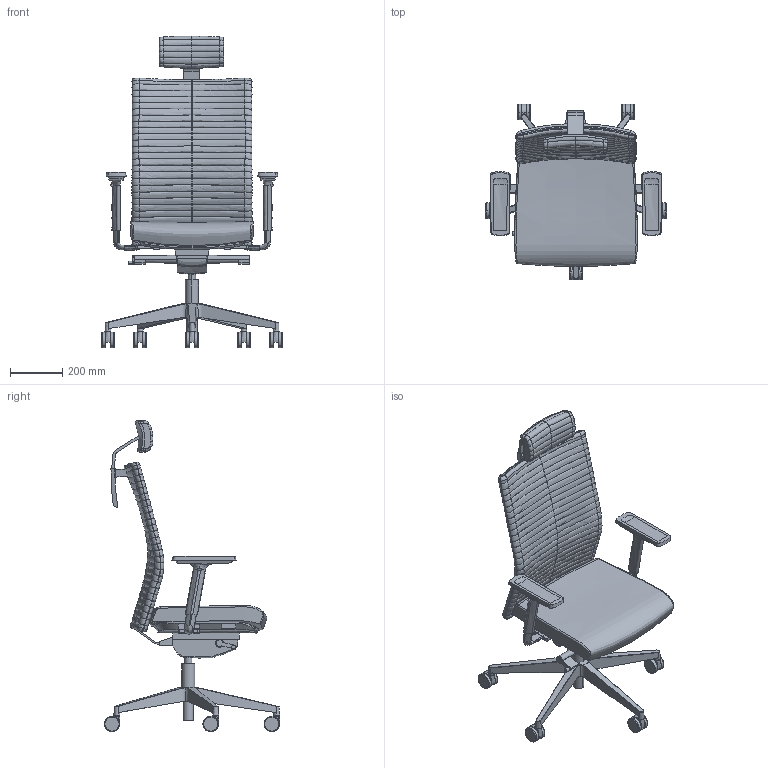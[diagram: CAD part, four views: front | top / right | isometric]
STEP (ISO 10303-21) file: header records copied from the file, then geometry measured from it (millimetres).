
FILE_DESCRIPTION(/* description */ (''),/* implementation_level */ '2;1');
FILE_NAME(/* name */ 'ELEMEN~1',/* time_stamp */ '2017-07-24T16:52:22+02:00',/* author */ (''),/* organization */ (''),/* preprocessor_version */ 'ST-DEVELOPER v15',/* originating_system */ '',/* authorisation */ '');
FILE_SCHEMA (('CONFIG_CONTROL_DESIGN'));
Length unit declared in the file: millimetre
Products named in the file (1): Document
Bounding box: 694.82 x 673.73 x 1196.08 mm (x, y, z)
Volume: 4786858.5 mm3; surface area: 2410219.3 mm2
Topology: 22 solids, 52 shells, 795 faces, 1858 edges, 1109 vertices
Faces by surface type: bspline 634, plane 161
Entity records: 61271 total; most frequent: CARTESIAN_POINT 50062, ORIENTED_EDGE 3393, EDGE_CURVE 1838, B_SPLINE_CURVE_WITH_KNOTS 1344, VERTEX_POINT 1103, EDGE_LOOP 799, ADVANCED_FACE 795, FACE_OUTER_BOUND 795
